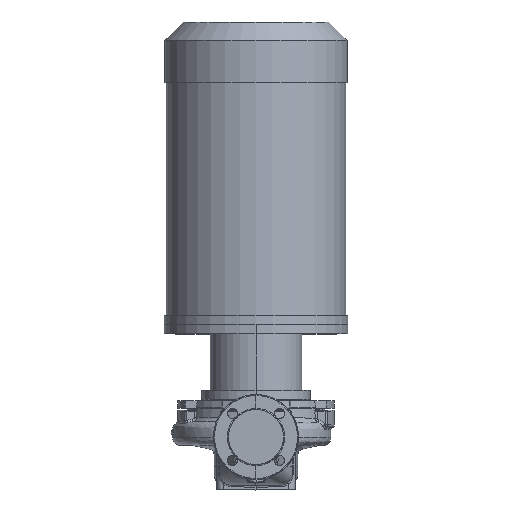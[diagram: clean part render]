
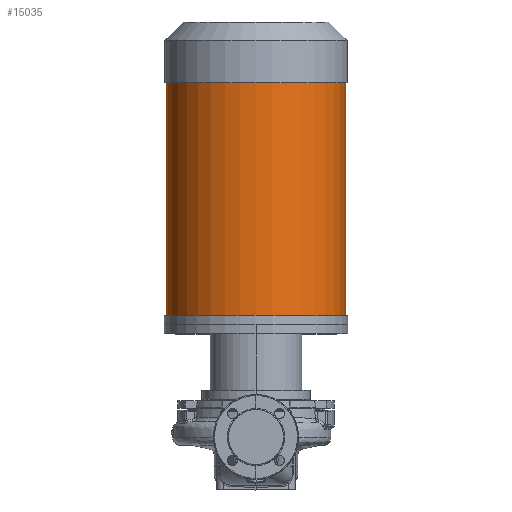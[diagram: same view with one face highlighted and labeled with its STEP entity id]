
A CAD part, top view. The second image highlights one B-rep face of the part: STEP entity #15035.
In plain terms, the highlighted cylindrical face has radius 195.5 mm (diameter 391 mm), a partial arc.
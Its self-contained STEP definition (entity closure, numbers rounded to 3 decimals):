
#624 = CARTESIAN_POINT ( 'NONE',  ( 195.5, 265.3, 0. ) ) ;
#2804 = DIRECTION ( 'NONE',  ( 0., -1., 0. ) ) ;
#4623 = ORIENTED_EDGE ( 'NONE', *, *, #28867, .F. ) ;
#5665 = LINE ( 'NONE', #28991, #57598 ) ;
#11672 = DIRECTION ( 'NONE',  ( -1., 0., 0. ) ) ;
#12433 = LINE ( 'NONE', #18669, #33471 ) ;
#15035 = ADVANCED_FACE ( 'NONE', ( #57197 ), #37744, .T. ) ;
#18669 = CARTESIAN_POINT ( 'NONE',  ( -195.5, 245.3, 0. ) ) ;
#21198 = VERTEX_POINT ( 'NONE', #624 ) ;
#25446 = CIRCLE ( 'NONE', #44625, 195.5 ) ;
#27031 = EDGE_CURVE ( 'NONE', #28023, #45487, #12433, .T. ) ;
#28023 = VERTEX_POINT ( 'NONE', #33493 ) ;
#28255 = AXIS2_PLACEMENT_3D ( 'NONE', #64450, #37724, #11672 ) ;
#28867 = EDGE_CURVE ( 'NONE', #37024, #21198, #5665, .T. ) ;
#28991 = CARTESIAN_POINT ( 'NONE',  ( 195.5, 245.3, 0. ) ) ;
#31166 = CARTESIAN_POINT ( 'NONE',  ( -195.5, 265.3, 0. ) ) ;
#33471 = VECTOR ( 'NONE', #56500, 1000. ) ;
#33493 = CARTESIAN_POINT ( 'NONE',  ( -195.5, 773.3, 0. ) ) ;
#34550 = DIRECTION ( 'NONE',  ( -1., 0., 0. ) ) ;
#36176 = AXIS2_PLACEMENT_3D ( 'NONE', #53584, #58320, #48351 ) ;
#37024 = VERTEX_POINT ( 'NONE', #60096 ) ;
#37724 = DIRECTION ( 'NONE',  ( 0., -1., 0. ) ) ;
#37744 = CYLINDRICAL_SURFACE ( 'NONE', #36176, 195.5 ) ;
#39879 = DIRECTION ( 'NONE',  ( 0., -1., 0. ) ) ;
#43580 = ORIENTED_EDGE ( 'NONE', *, *, #27031, .T. ) ;
#44320 = EDGE_CURVE ( 'NONE', #21198, #45487, #25446, .T. ) ;
#44625 = AXIS2_PLACEMENT_3D ( 'NONE', #49973, #2804, #34550 ) ;
#45487 = VERTEX_POINT ( 'NONE', #31166 ) ;
#46378 = CIRCLE ( 'NONE', #28255, 195.5 ) ;
#47091 = EDGE_LOOP ( 'NONE', ( #4623, #65587, #43580, #64716 ) ) ;
#48351 = DIRECTION ( 'NONE',  ( -1., 0., 0. ) ) ;
#49973 = CARTESIAN_POINT ( 'NONE',  ( 0., 265.3, 0. ) ) ;
#53584 = CARTESIAN_POINT ( 'NONE',  ( 0., 245.3, 0. ) ) ;
#55796 = EDGE_CURVE ( 'NONE', #37024, #28023, #46378, .T. ) ;
#56500 = DIRECTION ( 'NONE',  ( 0., -1., 0. ) ) ;
#57197 = FACE_OUTER_BOUND ( 'NONE', #47091, .T. ) ;
#57598 = VECTOR ( 'NONE', #39879, 1000. ) ;
#58320 = DIRECTION ( 'NONE',  ( 0., -1., 0. ) ) ;
#60096 = CARTESIAN_POINT ( 'NONE',  ( 195.5, 773.3, 0. ) ) ;
#64450 = CARTESIAN_POINT ( 'NONE',  ( 0., 773.3, 0. ) ) ;
#64716 = ORIENTED_EDGE ( 'NONE', *, *, #44320, .F. ) ;
#65587 = ORIENTED_EDGE ( 'NONE', *, *, #55796, .T. ) ;
